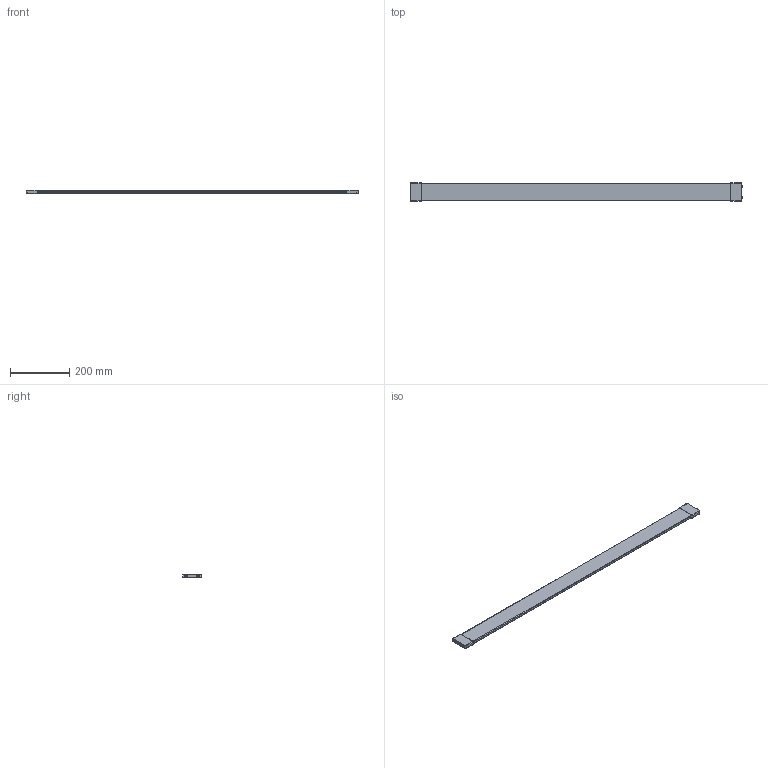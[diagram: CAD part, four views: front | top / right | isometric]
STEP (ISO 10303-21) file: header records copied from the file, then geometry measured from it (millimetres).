
FILE_DESCRIPTION (( 'STEP AP214' ), '1' );
FILE_NAME ('Schubkastenteiler_PROKAB_1200.step', '2009-11-04T15:16:58', ( 'Waldinger Reinhard' ), ( 'Grass GmbH' ), 'SwSTEP 2.0', 'SolidWorks 2009', '' );
FILE_SCHEMA (( 'AUTOMOTIVE_DESIGN' ));
Length unit declared in the file: millimetre
Products named in the file (1): Schubkastenteiler_PROKAB_1200
Bounding box: 1117.9 x 63.7 x 13 mm (x, y, z)
Volume: 668279.8 mm3; surface area: 154511.9 mm2
Topology: 1 solids, 1 shells, 92 faces, 208 edges, 124 vertices
Faces by surface type: cylinder 38, torus 28, plane 22, bspline 4
Entity records: 3210 total; most frequent: CARTESIAN_POINT 1069, DIRECTION 486, ORIENTED_EDGE 416, EDGE_CURVE 208, AXIS2_PLACEMENT_3D 205, VERTEX_POINT 124, CIRCLE 116, EDGE_LOOP 98
